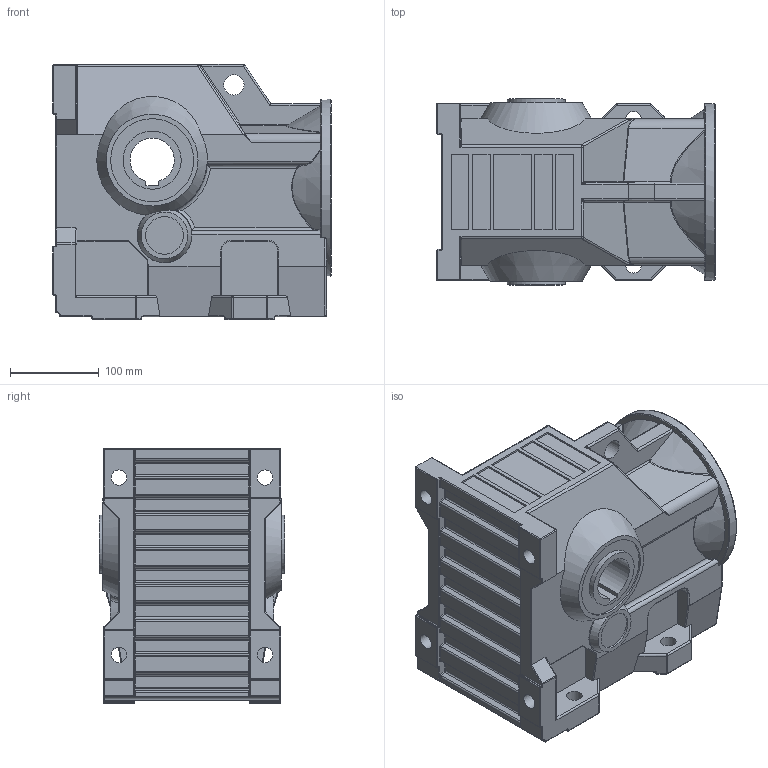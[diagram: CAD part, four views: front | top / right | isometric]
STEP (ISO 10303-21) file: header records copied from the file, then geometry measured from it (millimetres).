
FILE_DESCRIPTION((''),'2;1');
FILE_NAME('F:\PAWEŁ\ZLECENIA\2011 DualSystem\Przekładnie DK\001 Modele\DKAB70_\DK_70-_STEP\DK_B_70.stp','2012-06-26T18:57:07',('admin'),(''),'Autodesk Inventor 2009','Autodesk Inventor 2009','');
FILE_SCHEMA(('AUTOMOTIVE_DESIGN { 1 0 10303 214 1 1 1 1 }'));
Length unit declared in the file: millimetre
Products named in the file (1): DK_B_70
Bounding box: 314 x 210 x 288 mm (x, y, z)
Volume: 12360714.9 mm3; surface area: 472029 mm2
Topology: 1 solids, 1 shells, 717 faces, 1728 edges, 985 vertices
Faces by surface type: cylinder 316, plane 161, bspline 158, sphere 46, torus 29, cone 7
Full cylindrical faces by diameter (mm): 17.5 x4, 23 x1, 42.674 x2, 65.638 x1, 93.638 x1, 130 x1, 200 x1
Entity records: 25378 total; most frequent: CARTESIAN_POINT 9274, DIRECTION 3439, ORIENTED_EDGE 3268, EDGE_CURVE 1634, AXIS2_PLACEMENT_3D 1339, VERTEX_POINT 954, EDGE_LOOP 772, VECTOR 761
